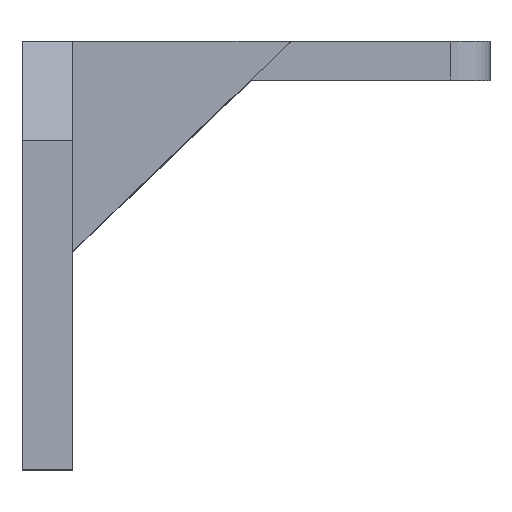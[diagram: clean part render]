
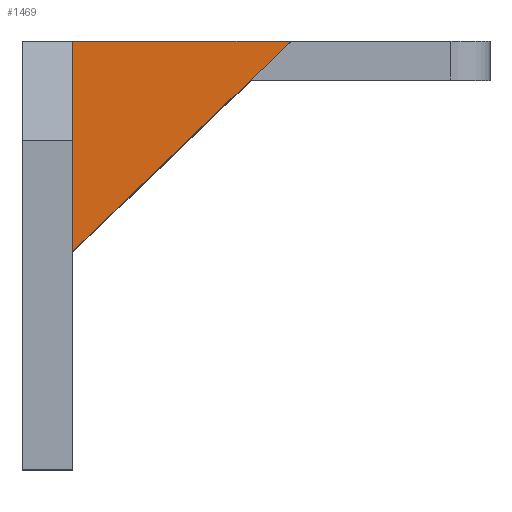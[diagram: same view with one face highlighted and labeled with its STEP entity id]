
A CAD part, top view. The second image highlights one B-rep face of the part: STEP entity #1469.
In plain terms, the highlighted planar face has unit normal (0, 0, 1).
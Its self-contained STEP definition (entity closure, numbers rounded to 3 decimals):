
#43 = DIRECTION ( 'NONE',  ( -0.72, -0.694, 0. ) ) ;
#44 = CARTESIAN_POINT ( 'NONE',  ( 69., 55., 59. ) ) ;
#45 = LINE ( 'NONE', #44, #1457 ) ;
#241 = CARTESIAN_POINT ( 'NONE',  ( 69., 55., 59. ) ) ;
#269 = CARTESIAN_POINT ( 'NONE',  ( 13., 55., 59. ) ) ;
#270 = CARTESIAN_POINT ( 'NONE',  ( 13., 1., 59. ) ) ;
#450 = VERTEX_POINT ( 'NONE', #270 ) ;
#457 = VERTEX_POINT ( 'NONE', #269 ) ;
#514 = ORIENTED_EDGE ( 'NONE', *, *, #1560, .T. ) ;
#545 = VERTEX_POINT ( 'NONE', #241 ) ;
#613 = EDGE_LOOP ( 'NONE', ( #1135, #915, #514 ) ) ;
#721 = VECTOR ( 'NONE', #755, 1000. ) ;
#755 = DIRECTION ( 'NONE',  ( -1., 0., 0. ) ) ;
#763 = CARTESIAN_POINT ( 'NONE',  ( 69., 55., 59. ) ) ;
#765 = LINE ( 'NONE', #763, #721 ) ;
#915 = ORIENTED_EDGE ( 'NONE', *, *, #1321, .F. ) ;
#949 = AXIS2_PLACEMENT_3D ( 'NONE', #1164, #1163, #1160 ) ;
#962 = FACE_OUTER_BOUND ( 'NONE', #613, .T. ) ;
#1135 = ORIENTED_EDGE ( 'NONE', *, *, #1382, .T. ) ;
#1160 = DIRECTION ( 'NONE',  ( 0., 1., 0. ) ) ;
#1163 = DIRECTION ( 'NONE',  ( 0., 0., -1. ) ) ;
#1164 = CARTESIAN_POINT ( 'NONE',  ( 69., 55., 59. ) ) ;
#1179 = PLANE ( 'NONE',  #949 ) ;
#1254 = VECTOR ( 'NONE', #1527, 1000. ) ;
#1321 = EDGE_CURVE ( 'NONE', #545, #450, #45, .T. ) ;
#1382 = EDGE_CURVE ( 'NONE', #457, #450, #1529, .T. ) ;
#1457 = VECTOR ( 'NONE', #43, 1000. ) ;
#1469 = ADVANCED_FACE ( 'NONE', ( #962 ), #1179, .F. ) ;
#1527 = DIRECTION ( 'NONE',  ( 0., -1., 0. ) ) ;
#1528 = CARTESIAN_POINT ( 'NONE',  ( 13., 55., 59. ) ) ;
#1529 = LINE ( 'NONE', #1528, #1254 ) ;
#1560 = EDGE_CURVE ( 'NONE', #545, #457, #765, .T. ) ;
